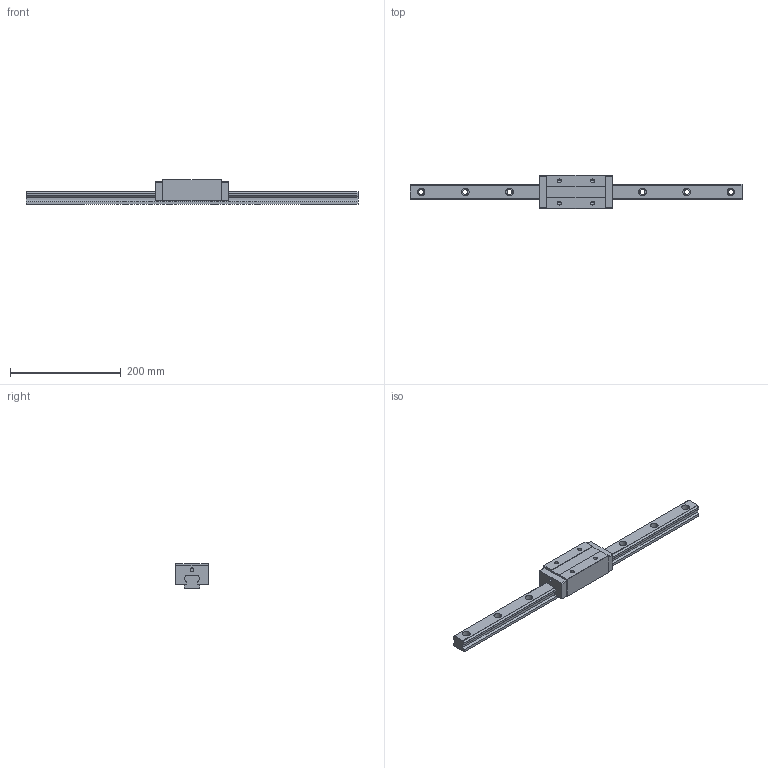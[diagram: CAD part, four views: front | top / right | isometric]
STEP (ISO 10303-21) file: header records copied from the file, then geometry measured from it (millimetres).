
FILE_DESCRIPTION (( 'STEP AP203' ), '1' );
FILE_NAME ('TRH30VE-XNC.STEP', '2024-08-16T06:41:17', ( '' ), ( '' ), 'SwSTEP 2.0', 'SolidWorks 2021', '' );
FILE_SCHEMA (( 'CONFIG_CONTROL_DESIGN' ));
Length unit declared in the file: millimetre
Products named in the file (1): TRH30VE-XNC
Bounding box: 600 x 60 x 45 mm (x, y, z)
Volume: 558295.9 mm3; surface area: 102084.9 mm2
Topology: 1 solids, 1 shells, 170 faces, 464 edges, 300 vertices
Faces by surface type: cylinder 80, plane 74, cone 16
Entity records: 5465 total; most frequent: DIRECTION 966, CARTESIAN_POINT 927, ORIENTED_EDGE 912, EDGE_CURVE 456, AXIS2_PLACEMENT_3D 339, VERTEX_POINT 300, LINE 288, VECTOR 288
